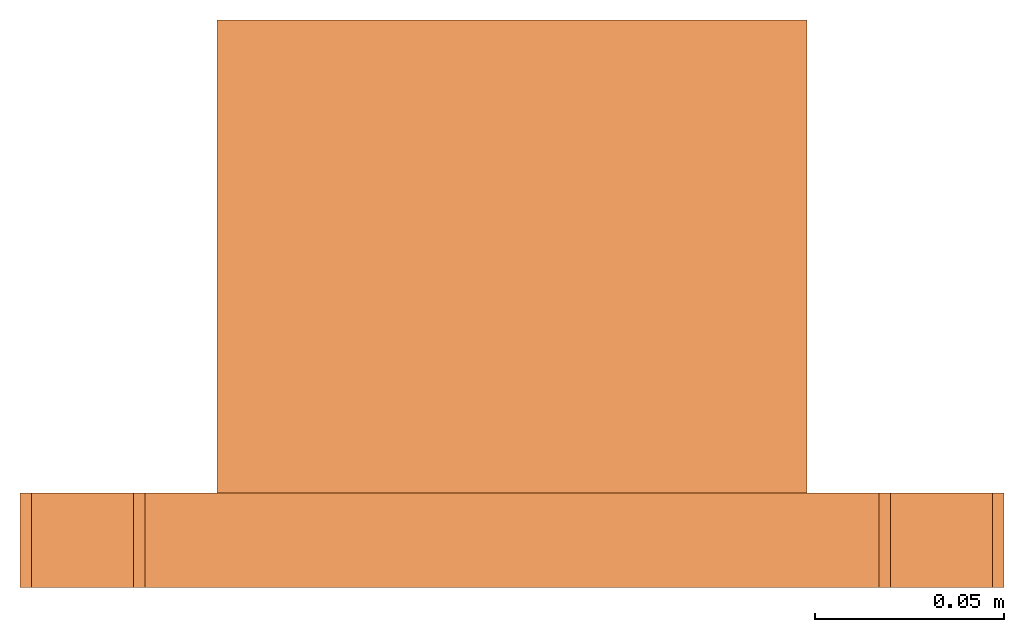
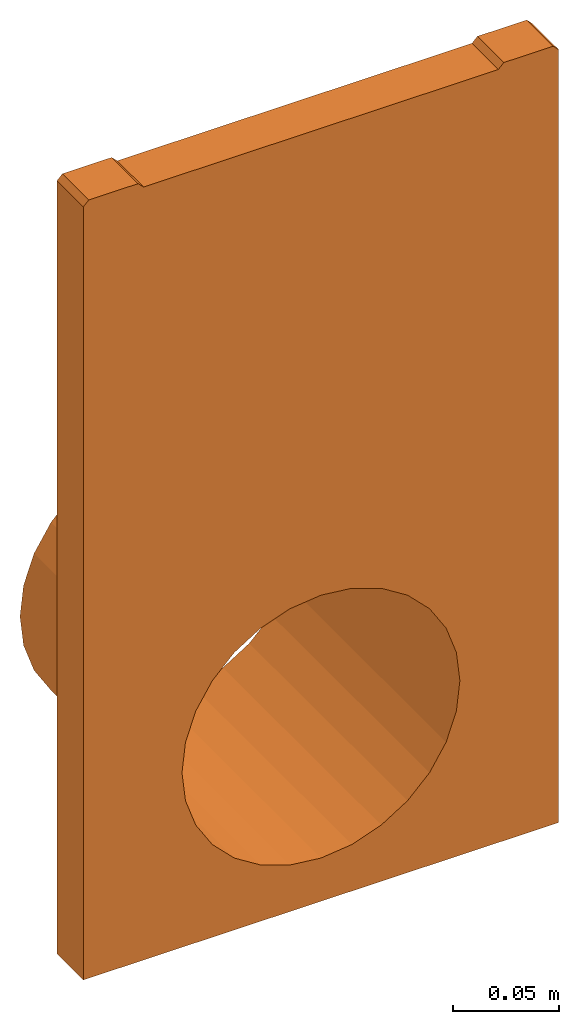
# One storey: 1 proxy.
"""IFC2X3 building model written with IfcOpenShell, lengths in millimetres."""

from ifc_helpers import new_model, entity, si_unit, converted_unit, direction, frame, frame_2d, origin, origin_2d_with_axis, place, context, subcontext, project, spatial, polyline, circle_curve, parameter, trimmed, segment, composite_curve, outline, extrude, source, transform, mapped, material, material_list, element, save


model = new_model("IFC2X3")

# Units and contexts
model_context = context("Model", 3, precision=1e-06, world=origin(), true_north=direction((2.0, 6.12303176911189e-17, 1.0)))
context_of_model = context(None, 3, precision=1e-06, world=origin(), true_north=direction((2.0, 6.12303176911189e-17, 1.0)))
body_context = subcontext(model_context, "Body", "Model", "MODEL_VIEW")
ifc_project = project(units=[si_unit("LENGTHUNIT", "METRE", prefix="MILLI"), si_unit("AREAUNIT", "SQUARE_METRE", prefix="MILLI"), si_unit("VOLUMEUNIT", "CUBIC_METRE", prefix="MILLI"), converted_unit("PLANEANGLEUNIT", "DEGREE", entity("IfcRatioMeasure", 0.0174532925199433), si_unit("PLANEANGLEUNIT", "RADIAN"), dimensions=[0, 0, 0, 0, 0, 0, 0]), si_unit("TIMEUNIT", "SECOND")], contexts=[model_context, context_of_model])

# Site, building, storey
site_placement = place(None, origin())
site = spatial("IfcSite", under=ifc_project, at=site_placement, Name="Default", CompositionType="ELEMENT")
building_placement = place(site_placement, origin())
building = spatial("IfcBuilding", under=site, at=building_placement, CompositionType="ELEMENT")
storey_placement = place(building_placement, frame((0.0, 0.0, -4600.0)))
storey = spatial("IfcBuildingStorey", under=building, at=storey_placement, Name="B.O. Footing", CompositionType="ELEMENT", Elevation=-4600.0)

# Proxy
ifc_material_1 = material(Name="Phenolic Resin")
ifc_material_2 = material(Name="Acetal Resin, Black")
ifc_material_list = material_list([ifc_material_1, ifc_material_2])
shared_shape = source(origin(), body_context, "Body", "SweptSolid", [
    extrude(outline(composite_curve([segment(trimmed(circle_curve(origin_2d_with_axis(), 77.9999330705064), [parameter(180.0)], [parameter(0.0)], True, "PARAMETER"), True, "CONTINUOUS"), segment(trimmed(circle_curve(origin_2d_with_axis(), 77.9999330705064), [parameter(0.0)], [parameter(180.0)], True, "PARAMETER"), True, "CONTINUOUS")], self_intersect=False), holes=[composite_curve([segment(trimmed(circle_curve(origin_2d_with_axis(), 75.9999330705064), [parameter(2.03555499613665e-13)], [parameter(180.0)], True, "PARAMETER"), False, "CONTINUOUS"), segment(trimmed(circle_curve(origin_2d_with_axis(), 75.9999330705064), [parameter(180.0)], [parameter(0.0)], True, "PARAMETER"), False, "CONTINUOUS")], self_intersect=False)]), frame((-1.5326969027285e-09, 25.0, -349.0), z_axis=(0.0, 1.0, 0.0), x_axis=(1.0, 0.0, 0.0)), (0.0, 0.0, 1.0), 125.0),
    extrude(outline(polyline([(-130.0, -358.799999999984), (130.0, -358.799999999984), (130.0, 88.1999999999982), (127.0, 91.1999999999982), (100.0, 91.1999999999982), (97.0, 88.1999999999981), (-97.0, 88.1999999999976), (-100.0, 91.1999999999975), (-127.0, 91.1999999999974), (-130.0, 88.1999999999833), (-130.0, -358.799999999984)]), holes=[composite_curve([segment(trimmed(circle_curve(frame_2d((0.0, -257.800066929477), x_axis=(1.0, 0.0)), 75.9999330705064), [parameter(180.0)], [parameter(360.0)], True, "PARAMETER"), False, "CONTINUOUS"), segment(trimmed(circle_curve(frame_2d((0.0, -257.800066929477), x_axis=(1.0, 0.0)), 75.9999330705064), [parameter(0.0)], [parameter(180.0)], True, "PARAMETER"), False, "CONTINUOUS")], self_intersect=False)]), frame((0.0, 0.0, -91.2000000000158), z_axis=(0.0, 1.0, 0.0), x_axis=(-1.0, 0.0, 0.0)), (0.0, 0.0, 1.0), 25.0),
])
proxy_placement = place(storey_placement, frame((-71694.9775722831, 28686.5082893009, 300.0)))
element("IfcBuildingElementProxy", 1, at=proxy_placement, inside=storey, material=ifc_material_list, Name="Civil-Drainage-Channel-ACO-RoadDrain 200:33208 - PD200 F 208 Inlet/outlet endcap:33208 - PD200 F 208 Inlet/outlet endcap", ObjectType="33208 - PD200 F 208 Inlet/outlet endcap", CompositionType="ELEMENT", context=body_context, shape_type="MappedRepresentation", body=[
    mapped(shared_shape, transform((0.0, 0.0, 0.0), scale=1.0)),
])

save(model, "model.ifc")
